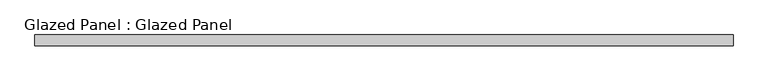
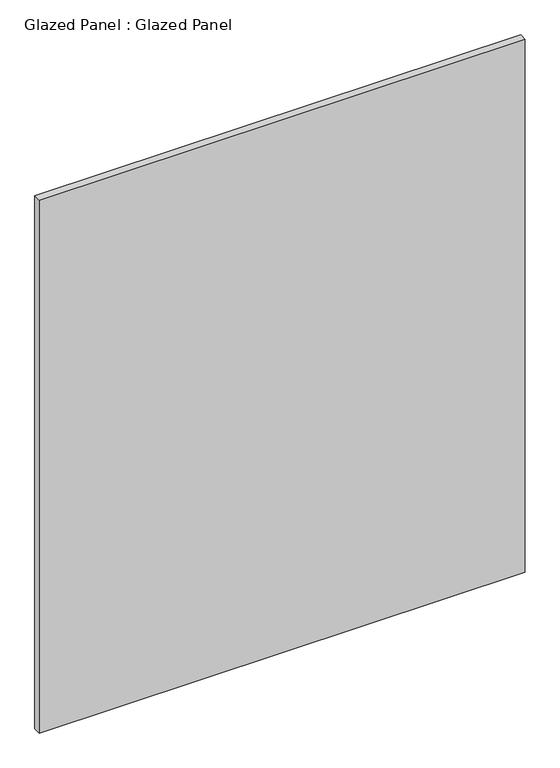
"""IFC4 building model written with IfcOpenShell, lengths in millimetres: plate geometry, Glazed Panel : Glazed Panel."""

from ifc_helpers import new_model, si_unit, origin, origin_with_axes, place, context, project, spatial, polyline, outline, extrude, source, transform, mapped, element, save


def glazed_panel_glazed_panel_807801c3(model_context):
    return source(origin(), model_context, "Body", "SweptSolid", [
        extrude(outline(polyline([(835.8873557, 38.1), (-835.8873557, 38.1), (-835.8873557, 63.5), (835.8873557, 63.5), (835.8873557, 38.1)])), origin_with_axes(), (0.0, 0.0, 1.0), 1936.75),
    ])


if __name__ == "__main__":
    model = new_model("IFC4")
    model_context = context("Model", 3, world=origin())
    ifc_project = project(units=[si_unit("LENGTHUNIT", "METRE", prefix="MILLI")], contexts=[model_context])
    site = spatial("IfcSite", under=ifc_project)
    building = spatial("IfcBuilding", under=site)
    placement = place(None, origin())
    glazed_panel_glazed_panel_shape = glazed_panel_glazed_panel_807801c3(model_context)
    element("IfcPlate", 1, ObjectType="Glazed Panel : Glazed Panel", at=placement, inside=building, context=model_context, shape_type="MappedRepresentation", body=[
        mapped(glazed_panel_glazed_panel_shape, transform((0.0, 0.0, 0.0), x_axis=(1.0, 0.0, 0.0), y_axis=(0.0, 1.0, 0.0), z_axis=(0.0, 0.0, 1.0))),
    ])
    save(model, "model.ifc")
